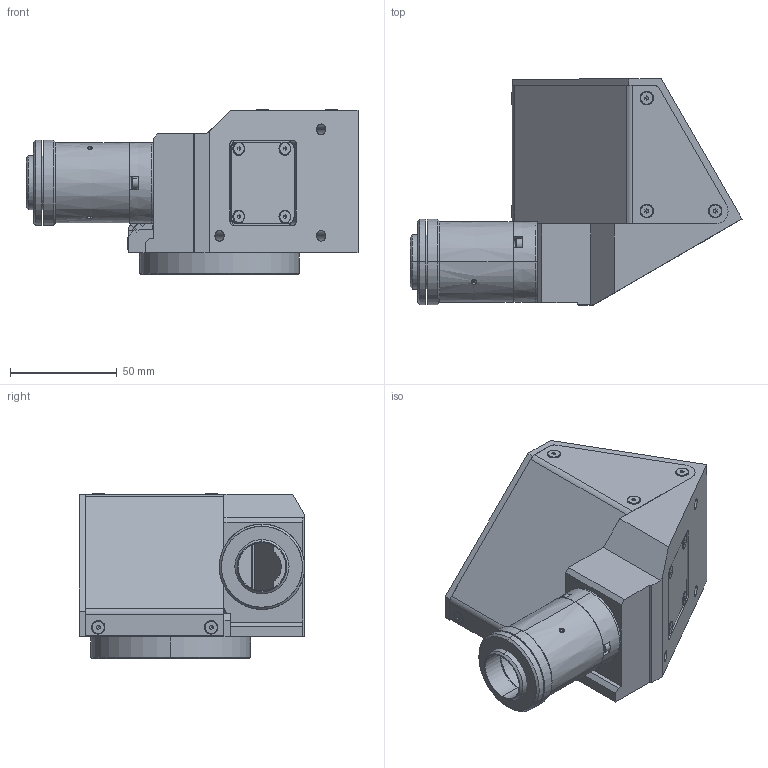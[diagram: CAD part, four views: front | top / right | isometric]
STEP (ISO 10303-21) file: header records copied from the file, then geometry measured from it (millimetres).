
FILE_DESCRIPTION(('LS-TCL-0380'),'2;1');
FILE_NAME('LS-TCL-0380.stp','2026-10-15T21:56:20',('LumaSpec Vision'),('LumaSpec Vision'),'LumaSpec Vision','LumaSpec Vision','');
FILE_SCHEMA(('AUTOMOTIVE_DESIGN { 1 0 10303 214 1 1 1 1 }'));
Length unit declared in the file: millimetre
Products named in the file (317): LumaSpec Vision
Assembly tree (316 placements, depth 2):
  LumaSpec Vision
    LumaSpec Vision
    LumaSpec Vision
    LumaSpec Vision
    LumaSpec Vision
    LumaSpec Vision
    LumaSpec Vision
    LumaSpec Vision
    LumaSpec Vision
    LumaSpec Vision
    LumaSpec Vision
    LumaSpec Vision
    LumaSpec Vision
    LumaSpec Vision
    LumaSpec Vision
    LumaSpec Vision
    LumaSpec Vision
    LumaSpec Vision
    LumaSpec Vision
    LumaSpec Vision
    LumaSpec Vision
    LumaSpec Vision
    LumaSpec Vision
    LumaSpec Vision
    LumaSpec Vision
    LumaSpec Vision
    LumaSpec Vision
    LumaSpec Vision
    LumaSpec Vision
    LumaSpec Vision
    LumaSpec Vision
    LumaSpec Vision
    LumaSpec Vision
    LumaSpec Vision
    LumaSpec Vision
    LumaSpec Vision
    LumaSpec Vision
    LumaSpec Vision
    LumaSpec Vision
    LumaSpec Vision
    LumaSpec Vision
    LumaSpec Vision
    LumaSpec Vision
    LumaSpec Vision
    LumaSpec Vision
    LumaSpec Vision
    LumaSpec Vision
    LumaSpec Vision
    LumaSpec Vision
    LumaSpec Vision
    LumaSpec Vision
    LumaSpec Vision
    LumaSpec Vision
    LumaSpec Vision
    LumaSpec Vision
    LumaSpec Vision
    LumaSpec Vision
    LumaSpec Vision
    LumaSpec Vision
    LumaSpec Vision
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Bounding box: 155.77 x 106 x 77.19 mm (x, y, z)
Surface area: 62235.6 mm2 (no closed solid volume)
Topology: 0 solids, 316 shells, 316 faces, 5200 edges, 5167 vertices
Faces by surface type: revolution 178, bspline 138
Entity records: 86600 total; most frequent: CARTESIAN_POINT 34134, B_SPLINE_CURVE_WITH_KNOTS 9080, ORIENTED_EDGE 5167, EDGE_CURVE 5167, VERTEX_POINT 5167, SURFACE_CURVE 5167, PCURVE 5167, DEFINITIONAL_REPRESENTATION 5167
